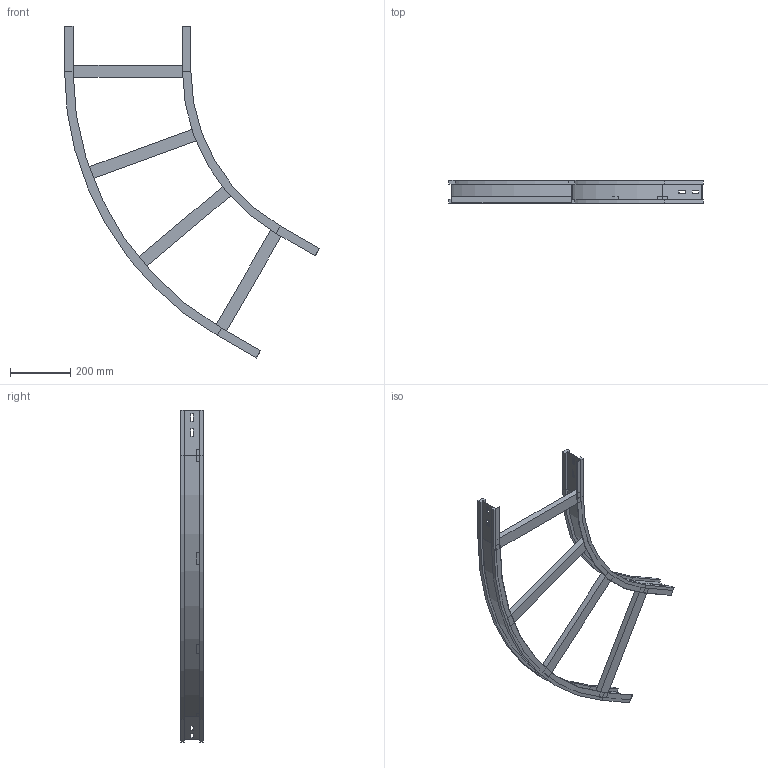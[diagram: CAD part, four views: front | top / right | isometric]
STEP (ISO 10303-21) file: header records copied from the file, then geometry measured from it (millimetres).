
FILE_DESCRIPTION (( 'STEP AP214' ), '1' );
FILE_NAME ('13S6C400.step', '2025-02-21T16:08:22', ( '' ), ( '' ), 'SwSTEP 2.0', 'SolidWorks 2023', '' );
FILE_SCHEMA (( 'AUTOMOTIVE_DESIGN' ));
Length unit declared in the file: millimetre
Products named in the file (4): LONGH.ESTERNO 60°_H75_R600+400; 13S6C400; TRAVERSINO_400; LONGH.INTERNO 60°_H75_R600
Assembly tree (6 placements, depth 2):
  13S6C400
    LONGH.INTERNO 60°_H75_R600
    LONGH.ESTERNO 60°_H75_R600+400
    TRAVERSINO_400  x4
Bounding box: 843.4 x 75 x 1098.82 mm (x, y, z)
Volume: 2404840.5 mm3; surface area: 759867.5 mm2
Topology: 6 solids, 6 shells, 132 faces, 312 edges, 192 vertices
Faces by surface type: plane 120, cylinder 12
Entity records: 3397 total; most frequent: CARTESIAN_POINT 567, ORIENTED_EDGE 552, DIRECTION 546, EDGE_CURVE 276, VECTOR 252, LINE 252, VERTEX_POINT 168, AXIS2_PLACEMENT_3D 147
